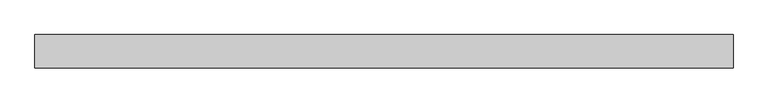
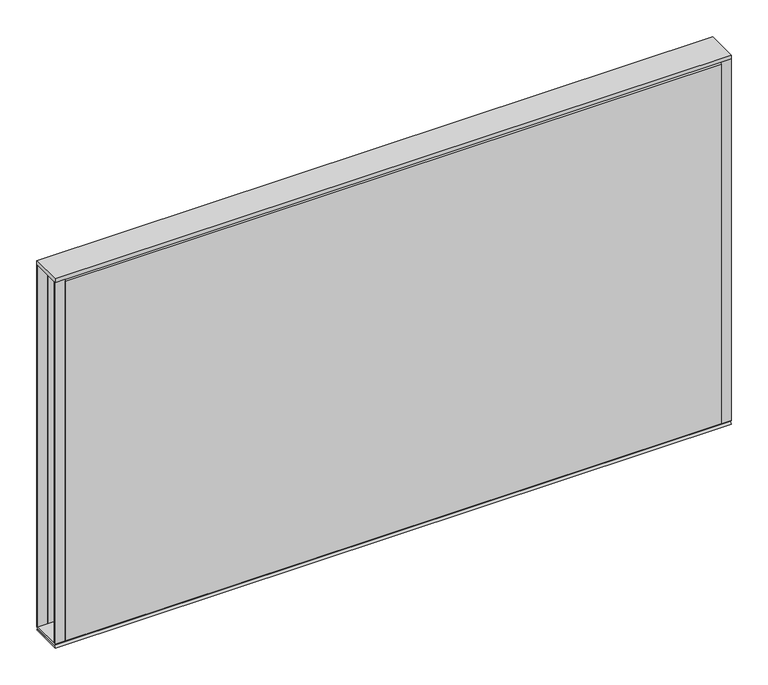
"""IFC4 building model written with IfcOpenShell, lengths in millimetres: furniture geometry, Steelcase - Kick Solutions - Panel - Stacker - Tackable Acoustical : 24H x 42W."""

from ifc_helpers import new_model, si_unit, frame, origin, place, context, project, spatial, polyline, outline, extrude, source, transform, mapped, element, save


def furniture_b6485626(model_context):
    return source(origin(), model_context, "Body", "SweptSolid", [
        extrude(outline(polyline([(-50.7995075, 1073.2669139), (-0.000494, 1073.2669139), (-3.1752531, 1070.0921549), (-47.6247484, 1070.0921549), (-50.7995075, 1073.2669139)])), frame((0.0, 0.0, 0.0), z_axis=(1.0, 0.0, 0.0), x_axis=(0.0, 1.0, 0.0)), (0.0, 0.0, 1.0), 1066.8),
        extrude(outline(polyline([(0.0, 1073.2669139), (-3.1750015, 1073.2669139), (-3.1750015, 1676.5169018), (0.0, 1673.4357466), (0.0, 1073.2669139)])), frame((15.8749996, 0.0, 0.0), z_axis=(1.0, 0.0, 0.0), x_axis=(0.0, 1.0, 0.0)), (0.0, 0.0, 1.0), 1035.0500008),
        extrude(outline(polyline([(-50.8000015, 1073.2669139), (-50.8000015, 1673.4357466), (-47.625, 1676.5169018), (-47.625, 1073.2669139), (-50.8000015, 1073.2669139)])), frame((15.8749996, 0.0, 0.0), z_axis=(1.0, 0.0, 0.0), x_axis=(0.0, 1.0, 0.0)), (0.0, 0.0, 1.0), 1035.0500008),
        extrude(outline(polyline([(1066.8, -3.1750015), (1050.9250004, -3.1750015), (1050.9250004, 0.0), (1066.8, 0.0), (1066.8, -3.1750015)])), frame((0.0, 0.0, 1073.2669139), z_axis=(0.0, 0.0, 1.0), x_axis=(1.0, 0.0, 0.0)), (0.0, 0.0, 1.0), 603.2499879),
        extrude(outline(polyline([(15.8749996, -50.8000015), (0.0, -50.8000015), (0.0, -47.625), (15.8749996, -47.625), (15.8749996, -50.8000015)])), frame((0.0, 0.0, 1073.2669139), z_axis=(0.0, 0.0, 1.0), x_axis=(1.0, 0.0, 0.0)), (0.0, 0.0, 1.0), 603.2499879),
        extrude(outline(polyline([(1066.8, 0.0), (1066.8, -50.8000015), (0.0, -50.8000015), (0.0, 0.0), (1066.8, 0.0)])), frame((0.0, 0.0, 1676.5169018), z_axis=(0.0, 0.0, 1.0), x_axis=(1.0, 0.0, 0.0)), (0.0, 0.0, 1.0), 6.35),
        extrude(outline(polyline([(15.8749996, -3.1750015), (0.0, -3.1750015), (0.0, 0.0), (15.8749996, 0.0), (15.8749996, -3.1750015)])), frame((0.0, 0.0, 1073.2669139), z_axis=(0.0, 0.0, 1.0), x_axis=(1.0, 0.0, 0.0)), (0.0, 0.0, 1.0), 603.2499879),
        extrude(outline(polyline([(1066.8, -50.8000015), (1050.9250004, -50.8000015), (1050.9250004, -47.625), (1066.8, -47.625), (1066.8, -50.8000015)])), frame((0.0, 0.0, 1073.2669139), z_axis=(0.0, 0.0, 1.0), x_axis=(1.0, 0.0, 0.0)), (0.0, 0.0, 1.0), 603.2499879),
        extrude(outline(polyline([(-50.8000015, 1066.9169018), (-47.6247484, 1070.0921549), (-3.1752531, 1070.0921549), (0.0, 1066.9169018), (-50.8000015, 1066.9169018)])), frame((0.0, 0.0, 0.0), z_axis=(1.0, 0.0, 0.0), x_axis=(0.0, 1.0, 0.0)), (0.0, 0.0, 1.0), 1066.8),
    ])


if __name__ == "__main__":
    model = new_model("IFC4")
    model_context = context("Model", 3, world=origin())
    ifc_project = project(units=[si_unit("LENGTHUNIT", "METRE", prefix="MILLI")], contexts=[model_context])
    site = spatial("IfcSite", under=ifc_project)
    building = spatial("IfcBuilding", under=site)
    placement = place(None, origin())
    furniture_shape = furniture_b6485626(model_context)
    element("IfcFurniture", 1, ObjectType="Steelcase - Kick Solutions - Panel - Stacker - Tackable Acoustical : 24H x 42W", at=placement, inside=building, context=model_context, shape_type="MappedRepresentation", body=[
        mapped(furniture_shape, transform((0.0, 0.0, 0.0), x_axis=(1.0, 0.0, 0.0), y_axis=(0.0, 1.0, 0.0), z_axis=(0.0, 0.0, 1.0))),
    ])
    save(model, "model.ifc")
